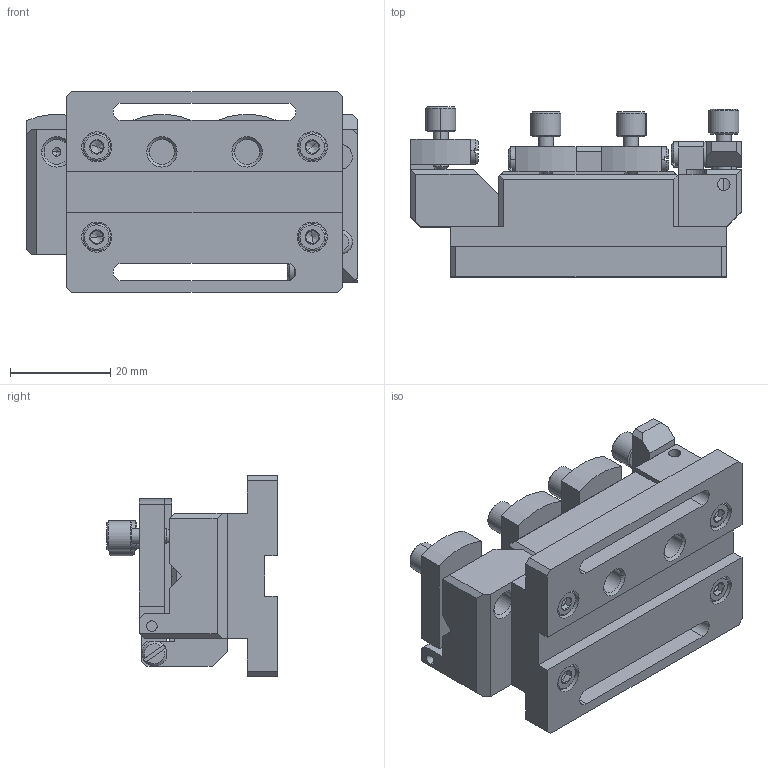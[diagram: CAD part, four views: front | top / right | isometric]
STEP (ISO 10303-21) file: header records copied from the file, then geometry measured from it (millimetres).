
FILE_DESCRIPTION (( 'STEP AP203' ), '1' );
FILE_NAME ('F260-1L.STEP', '2024-12-11T01:10:30', ( '' ), ( '' ), 'SwSTEP 2.0', 'SolidWorks 2017', '' );
FILE_SCHEMA (( 'CONFIG_CONTROL_DESIGN' ));
Length unit declared in the file: millimetre
Products named in the file (13): F260-1L-prt11; F260-1L; F260-1L-prt4; F260-1L-prt3; F260-1L-prt2; F260-1L-prt8; F260-1L-prt0; F260-1L-prt6; F260-1L-prt1; F260-1L-prt5; F260-1L-prt10; F260-1L-prt9; F260-1L-prt7
Assembly tree (12 placements, depth 2):
  F260-1L
    F260-1L-prt0
    F260-1L-prt1
    F260-1L-prt2
    F260-1L-prt3
    F260-1L-prt4
    F260-1L-prt5
    F260-1L-prt6
    F260-1L-prt7
    F260-1L-prt8
    F260-1L-prt9
    F260-1L-prt10
    F260-1L-prt11
Bounding box: 66 x 34 x 40 mm (x, y, z)
Volume: 33927.4 mm3; surface area: 20493.3 mm2
Topology: 11 solids, 12 shells, 581 faces, 1340 edges, 814 vertices
Faces by surface type: plane 284, cylinder 156, bspline 115, torus 20, cone 4, sphere 2
Entity records: 18232 total; most frequent: CARTESIAN_POINT 4047, DIRECTION 2712, ORIENTED_EDGE 2614, EDGE_CURVE 1307, AXIS2_PLACEMENT_3D 1015, VERTEX_POINT 810, VECTOR 682, LINE 682
